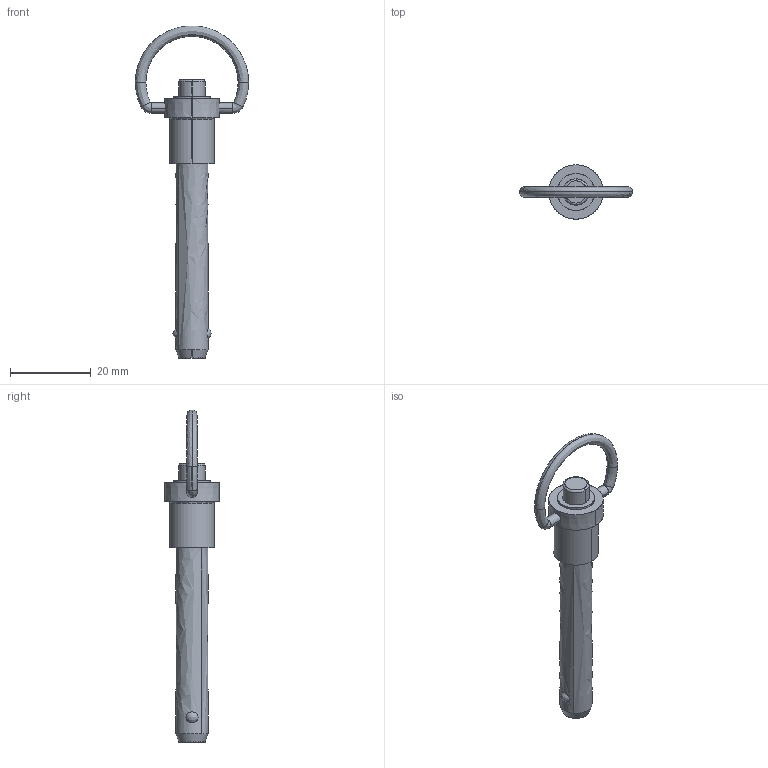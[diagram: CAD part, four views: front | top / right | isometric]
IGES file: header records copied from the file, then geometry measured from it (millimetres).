
Start section: SolidWorks IGES file using analytic representation for surfaces
Global section: file name: X:\11_SW2020-Inv2020\00_全2021-11新製品まで\b\BJ775-08040-SUS\bj775-08040-sus.IGS; native system: SolidWorks 2020; preprocessor: SolidWorks 2020; author: ImaoCorp; date: 211025.092644; units: millimetre
Bounding box: 27.99 x 13.46 x 82.08 mm (x, y, z)
Surface area: 2641.1 mm2 (no closed solid volume)
Topology: 0 solids, 0 shells, 39 faces, 662 edges, 662 vertices
Faces by surface type: bspline 23, revolution 16
